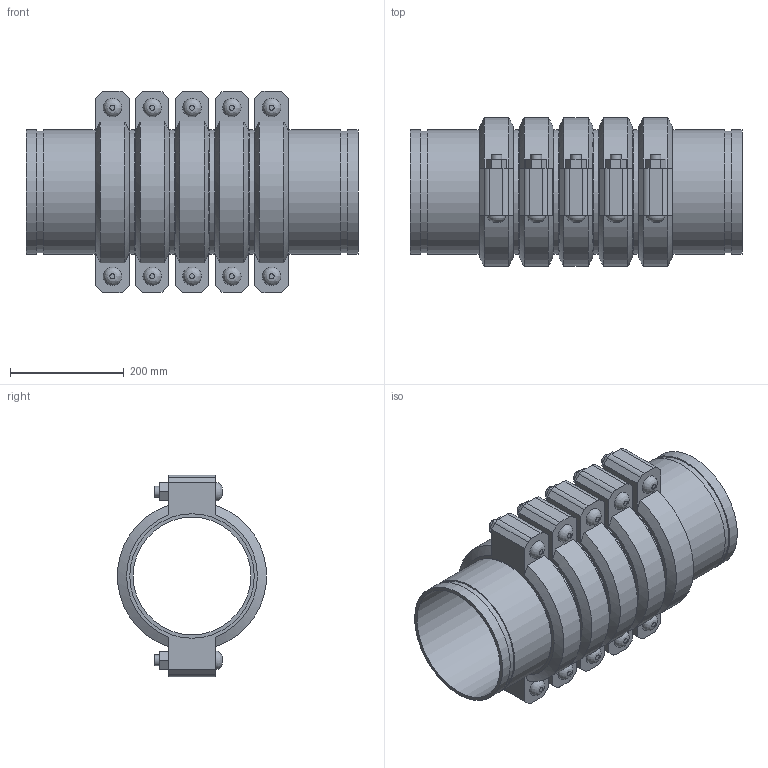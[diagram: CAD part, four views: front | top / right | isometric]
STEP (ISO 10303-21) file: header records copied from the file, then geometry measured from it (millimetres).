
FILE_DESCRIPTION(/* description */ ('VIC EXPANSION JOINT 5 COUPLINGS COMPRESSED STYLE 155 (OGS)','CAx-IF Rec.Pracs.---Representation and Presentation of Product Manufacturing Information (PMI)---4.0---2014-10-13'),/* implementation_level */ '2;1');
FILE_NAME(/* name */ 'C:\Users\kkamble\AppData\Roaming\Autodesk\ApplicationPlugins\Victaulic.Temp\A136\Victaulic_IPS_Expansion Joint_Compressed_5 Couplings_Style 155 (OGS)_8 (200).stp',/* time_stamp */ '2021-06-27T00:30:06+02:00',/* author */ ('kkamble'),/* organization */ ('Victaulic'),/* preprocessor_version */ 'ST-DEVELOPER v17.2',/* originating_system */ 'Autodesk Inventor 2019',/* authorisation */ '');
FILE_SCHEMA (('AP242_MANAGED_MODEL_BASED_3D_ENGINEERING_MIM_LF { 1 0 10303 442 1 1 4 }'));
Length unit declared in the file: inch
Products named in the file (4): 155-08.0; Nipple-08.0; Nipple-08.0_1; 075_5_Coup-08.0
Assembly tree (11 placements, depth 2):
  155-08.0
    Nipple-08.0  x2
    Nipple-08.0_1  x4
    075_5_Coup-08.0  x5
Bounding box: 584.2 x 261.72 x 354.84 mm (x, y, z)
Volume: 8988654.4 mm3; surface area: 1714051.1 mm2
Topology: 11 solids, 21 shells, 357 faces, 845 edges, 594 vertices
Faces by surface type: plane 216, cylinder 111, cone 20, bspline 10
Full cylindrical faces by diameter (mm): 19.05 x20, 21.209 x10, 206.985 x6, 212.725 x5, 214.401 x12, 219.075 x28
Entity records: 2810 total; most frequent: CARTESIAN_POINT 495, DIRECTION 465, ORIENTED_EDGE 386, EDGE_CURVE 193, AXIS2_PLACEMENT_3D 186, VERTEX_POINT 138, EDGE_LOOP 107, LINE 93
